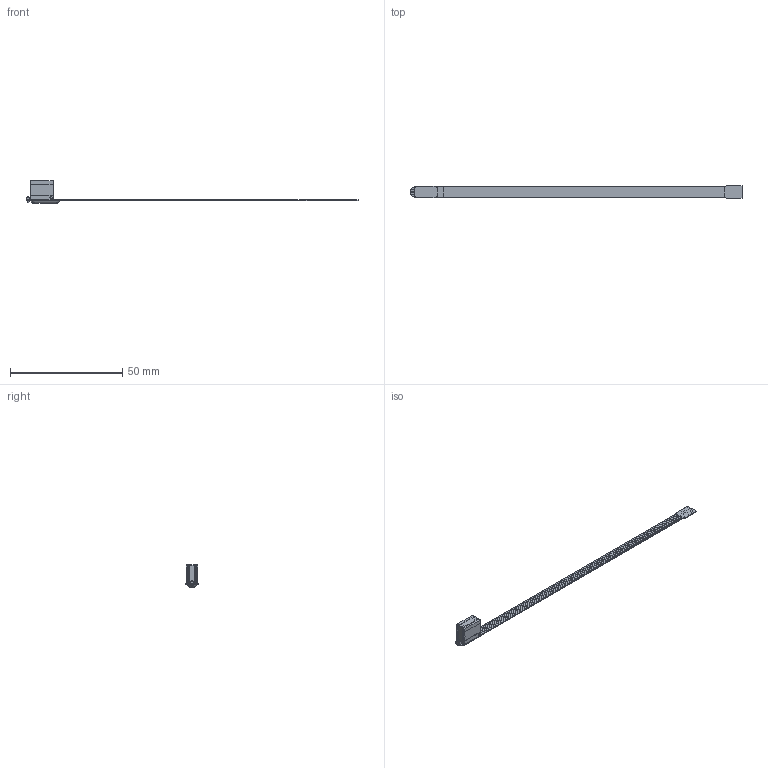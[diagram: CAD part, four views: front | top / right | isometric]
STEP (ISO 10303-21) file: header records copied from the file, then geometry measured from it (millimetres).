
FILE_DESCRIPTION (( 'STEP AP214' ), '1' );
FILE_NAME ('Rolin_flex-driver.STEP', '2017-10-11T12:09:23', ( '' ), ( '' ), 'SwSTEP 2.0', 'SolidWorks 2016', '' );
FILE_SCHEMA (( 'AUTOMOTIVE_DESIGN' ));
Length unit declared in the file: millimetre
Products named in the file (1): Rolin_flex-driver
Bounding box: 148.07 x 5.5 x 10.1 mm (x, y, z)
Surface area: 5273 mm2 (no closed solid volume)
Topology: 0 solids, 118 shells, 1977 faces, 4858 edges, 3141 vertices
Faces by surface type: plane 1372, cylinder 458, bspline 103, sphere 26, cone 12, torus 6
Entity records: 89094 total; most frequent: CARTESIAN_POINT 19588, ORIENTED_EDGE 9604, DIRECTION 9225, EDGE_CURVE 4824, VECTOR 3699, LINE 3699, VERTEX_POINT 3141, AXIS2_PLACEMENT_3D 2763
